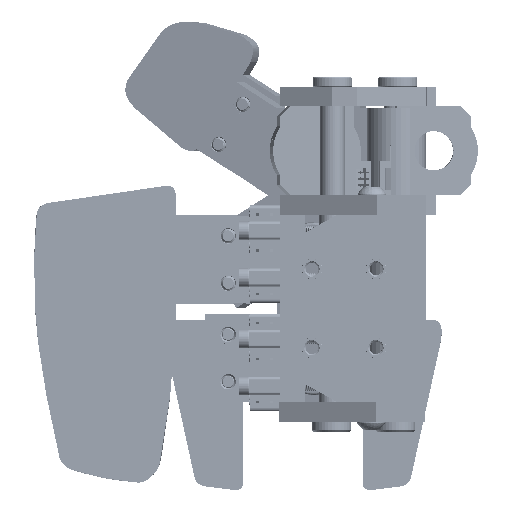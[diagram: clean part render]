
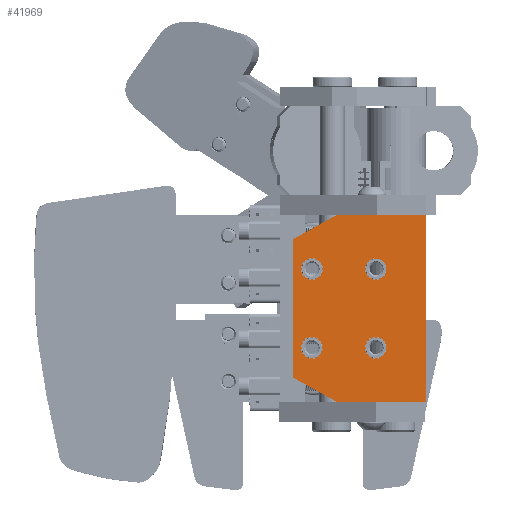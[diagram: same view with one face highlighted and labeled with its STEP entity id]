
A CAD part, front view. The second image highlights one B-rep face of the part: STEP entity #41969.
In plain terms, the highlighted planar face has unit normal (0, -1, 0) as drawn and (1, 0, 0) by its records, which use the part's own axes.
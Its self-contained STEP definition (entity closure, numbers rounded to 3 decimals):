
#2970=FACE_BOUND('',#6908,.T.);
#2971=FACE_BOUND('',#6909,.T.);
#2972=FACE_BOUND('',#6910,.T.);
#2973=FACE_BOUND('',#6911,.T.);
#3217=PLANE('',#44738);
#4509=FACE_OUTER_BOUND('',#6907,.T.);
#6907=EDGE_LOOP('',(#28795,#28796,#28797,#28798,#28799,#28800,#28801,#28802,
#28803,#28804,#28805));
#6908=EDGE_LOOP('',(#28806));
#6909=EDGE_LOOP('',(#28807));
#6910=EDGE_LOOP('',(#28808));
#6911=EDGE_LOOP('',(#28809));
#9533=LINE('',#56557,#13527);
#9545=LINE('',#56590,#13539);
#9546=LINE('',#56592,#13540);
#9566=LINE('',#56648,#13560);
#9567=LINE('',#56650,#13561);
#9568=LINE('',#56652,#13562);
#9569=LINE('',#56654,#13563);
#9570=LINE('',#56656,#13564);
#9571=LINE('',#56658,#13565);
#9572=LINE('',#56659,#13566);
#9573=LINE('',#56660,#13567);
#13527=VECTOR('',#47417,10.);
#13539=VECTOR('',#47445,10.);
#13540=VECTOR('',#47448,10.);
#13560=VECTOR('',#47498,10.);
#13561=VECTOR('',#47499,10.);
#13562=VECTOR('',#47500,10.);
#13563=VECTOR('',#47501,10.);
#13564=VECTOR('',#47502,10.);
#13565=VECTOR('',#47503,10.);
#13566=VECTOR('',#47504,10.);
#13567=VECTOR('',#47505,10.);
#17452=CIRCLE('',#44739,2.093);
#17453=CIRCLE('',#44740,2.093);
#17454=CIRCLE('',#44741,2.092);
#17455=CIRCLE('',#44742,2.093);
#17993=VERTEX_POINT('',#56553);
#17995=VERTEX_POINT('',#56556);
#18006=VERTEX_POINT('',#56584);
#18008=VERTEX_POINT('',#56588);
#18028=VERTEX_POINT('',#56646);
#18029=VERTEX_POINT('',#56647);
#18030=VERTEX_POINT('',#56649);
#18031=VERTEX_POINT('',#56651);
#18032=VERTEX_POINT('',#56653);
#18033=VERTEX_POINT('',#56655);
#18034=VERTEX_POINT('',#56657);
#18035=VERTEX_POINT('',#56661);
#18036=VERTEX_POINT('',#56663);
#18037=VERTEX_POINT('',#56665);
#18038=VERTEX_POINT('',#56667);
#22246=EDGE_CURVE('',#17995,#17993,#9533,.T.);
#22262=EDGE_CURVE('',#18008,#18006,#9545,.T.);
#22263=EDGE_CURVE('',#17995,#18008,#9546,.T.);
#22291=EDGE_CURVE('',#18028,#18029,#9566,.T.);
#22292=EDGE_CURVE('',#18029,#18030,#9567,.T.);
#22293=EDGE_CURVE('',#18030,#18031,#9568,.T.);
#22294=EDGE_CURVE('',#18031,#18032,#9569,.T.);
#22295=EDGE_CURVE('',#18032,#18033,#9570,.T.);
#22296=EDGE_CURVE('',#18033,#18034,#9571,.T.);
#22297=EDGE_CURVE('',#18034,#18006,#9572,.T.);
#22298=EDGE_CURVE('',#17993,#18028,#9573,.T.);
#22299=EDGE_CURVE('',#18035,#18035,#17452,.T.);
#22300=EDGE_CURVE('',#18036,#18036,#17453,.T.);
#22301=EDGE_CURVE('',#18037,#18037,#17454,.T.);
#22302=EDGE_CURVE('',#18038,#18038,#17455,.T.);
#28795=ORIENTED_EDGE('',*,*,#22291,.T.);
#28796=ORIENTED_EDGE('',*,*,#22292,.T.);
#28797=ORIENTED_EDGE('',*,*,#22293,.T.);
#28798=ORIENTED_EDGE('',*,*,#22294,.T.);
#28799=ORIENTED_EDGE('',*,*,#22295,.T.);
#28800=ORIENTED_EDGE('',*,*,#22296,.T.);
#28801=ORIENTED_EDGE('',*,*,#22297,.T.);
#28802=ORIENTED_EDGE('',*,*,#22262,.F.);
#28803=ORIENTED_EDGE('',*,*,#22263,.F.);
#28804=ORIENTED_EDGE('',*,*,#22246,.T.);
#28805=ORIENTED_EDGE('',*,*,#22298,.T.);
#28806=ORIENTED_EDGE('',*,*,#22299,.T.);
#28807=ORIENTED_EDGE('',*,*,#22300,.T.);
#28808=ORIENTED_EDGE('',*,*,#22301,.T.);
#28809=ORIENTED_EDGE('',*,*,#22302,.T.);
#41969=ADVANCED_FACE('',(#4509,#2970,#2971,#2972,#2973),#3217,.T.);
#44738=AXIS2_PLACEMENT_3D('',#56645,#47496,#47497);
#44739=AXIS2_PLACEMENT_3D('',#56662,#47506,#47507);
#44740=AXIS2_PLACEMENT_3D('',#56664,#47508,#47509);
#44741=AXIS2_PLACEMENT_3D('',#56666,#47510,#47511);
#44742=AXIS2_PLACEMENT_3D('',#56668,#47512,#47513);
#47417=DIRECTION('',(0.,1.,0.));
#47445=DIRECTION('',(0.,1.,0.));
#47448=DIRECTION('',(0.,0.,1.));
#47496=DIRECTION('center_axis',(1.,0.,0.));
#47497=DIRECTION('ref_axis',(0.,1.,0.));
#47498=DIRECTION('',(0.,1.,0.));
#47499=DIRECTION('',(0.,1.,0.));
#47500=DIRECTION('',(0.,0.,1.));
#47501=DIRECTION('',(0.,0.,1.));
#47502=DIRECTION('',(0.,-0.486,0.874));
#47503=DIRECTION('',(0.,-1.,0.));
#47504=DIRECTION('',(0.,-0.486,-0.874));
#47505=DIRECTION('',(0.,1.,0.));
#47506=DIRECTION('center_axis',(-1.,0.,0.));
#47507=DIRECTION('ref_axis',(0.,1.,0.));
#47508=DIRECTION('center_axis',(-1.,0.,0.));
#47509=DIRECTION('ref_axis',(0.,1.,0.));
#47510=DIRECTION('center_axis',(-1.,0.,0.));
#47511=DIRECTION('ref_axis',(0.,1.,0.));
#47512=DIRECTION('center_axis',(-1.,0.,0.));
#47513=DIRECTION('ref_axis',(0.,1.,0.));
#56553=CARTESIAN_POINT('',(-0.04,-16.75,-3.5));
#56556=CARTESIAN_POINT('',(-0.04,-16.754,-3.5));
#56557=CARTESIAN_POINT('',(-0.04,-16.754,-3.5));
#56584=CARTESIAN_POINT('',(-0.04,-16.75,14.503));
#56588=CARTESIAN_POINT('',(-0.04,-16.754,14.503));
#56590=CARTESIAN_POINT('',(-0.04,-16.754,14.503));
#56592=CARTESIAN_POINT('',(-0.04,-16.754,-3.5));
#56645=CARTESIAN_POINT('Origin',(-0.04,2.25,10.));
#56646=CARTESIAN_POINT('',(-0.04,-11.754,-3.5));
#56647=CARTESIAN_POINT('',(-0.04,16.25,-3.5));
#56648=CARTESIAN_POINT('',(-0.04,-16.75,-3.5));
#56649=CARTESIAN_POINT('',(-0.04,21.25,-3.5));
#56650=CARTESIAN_POINT('',(-0.04,-16.75,-3.5));
#56651=CARTESIAN_POINT('',(-0.04,21.25,1.5));
#56652=CARTESIAN_POINT('',(-0.04,21.25,-3.5));
#56653=CARTESIAN_POINT('',(-0.04,21.25,14.503));
#56654=CARTESIAN_POINT('',(-0.04,21.25,-3.5));
#56655=CARTESIAN_POINT('',(-0.04,16.25,23.5));
#56656=CARTESIAN_POINT('',(-0.04,21.25,14.503));
#56657=CARTESIAN_POINT('',(-0.04,-11.75,23.5));
#56658=CARTESIAN_POINT('',(-0.04,16.25,23.5));
#56659=CARTESIAN_POINT('',(-0.04,-11.75,23.5));
#56660=CARTESIAN_POINT('',(-0.04,-16.75,-3.5));
#56661=CARTESIAN_POINT('',(-0.04,8.159,19.602));
#56662=CARTESIAN_POINT('Origin',(-0.04,10.252,19.602));
#56663=CARTESIAN_POINT('',(-0.04,-7.845,19.602));
#56664=CARTESIAN_POINT('Origin',(-0.04,-5.752,
19.602));
#56665=CARTESIAN_POINT('',(-0.04,8.16,6.598));
#56666=CARTESIAN_POINT('Origin',(-0.04,10.252,6.598));
#56667=CARTESIAN_POINT('',(-0.04,-7.845,6.598));
#56668=CARTESIAN_POINT('Origin',(-0.04,-5.752,
6.598));
